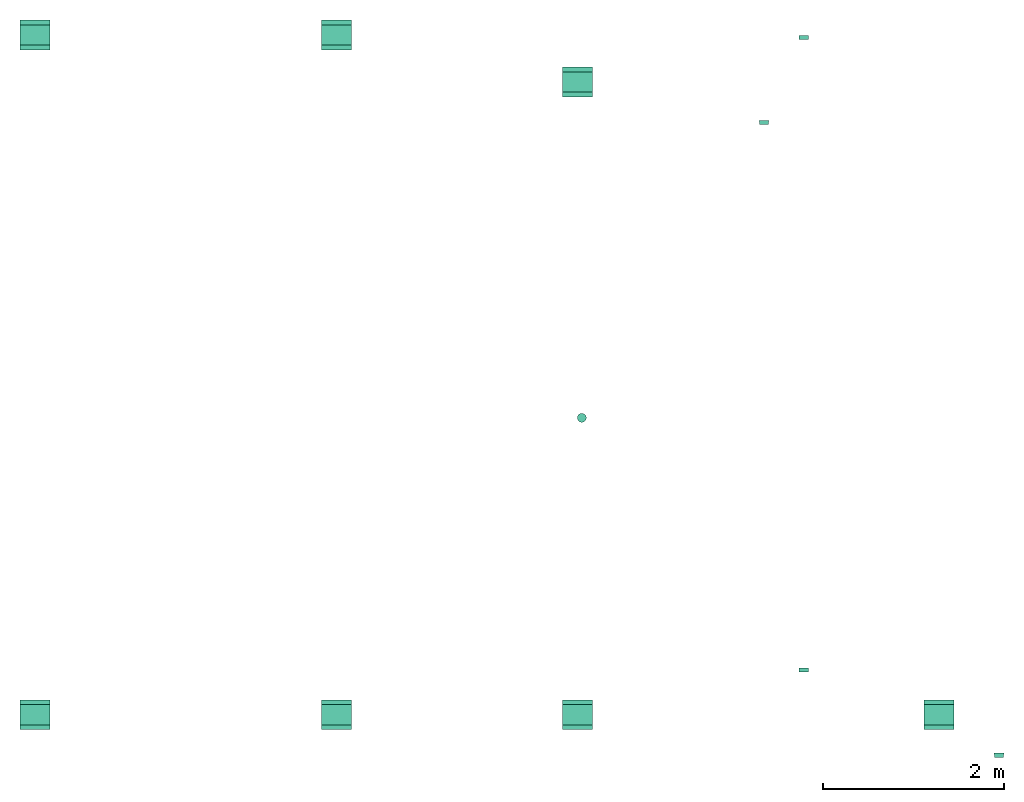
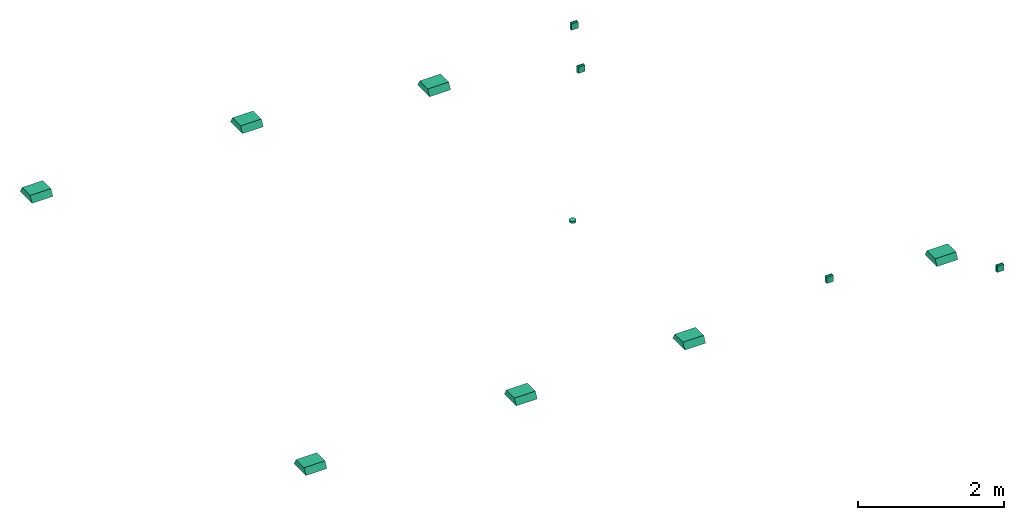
# One storey: 7 flow terminals, 4 flow fittings, 1 distribution control element.
"""IFC2X3 building model written with IfcOpenShell, lengths in millimetres."""

from ifc_helpers import new_model, entity, si_unit, converted_unit, derived_unit, direction, frame, origin_with_axes, place, context, subcontext, project, spatial, open_shell, surface_model, source, transform, mapped, type_object, element, save


model = new_model("IFC2X3")

# Units and contexts
model_context = context("Model", 3, precision=0.01, world=frame((0.0, 4.29681676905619e-09, 0.0)), true_north=direction((4.01073788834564e-13, 1.0)))
plan_context = context("Plan", 3, precision=0.01, world=frame((0.0, 4.29681676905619e-09, 0.0)), true_north=direction((4.01073788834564e-13, 1.0)))
body_context = subcontext(model_context, "Body", "Model", "MODEL_VIEW")
ifc_project = project(units=[converted_unit("PLANEANGLEUNIT", "DEGREE", entity("IfcPositiveLengthMeasure", 0.0174532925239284), si_unit("PLANEANGLEUNIT", "RADIAN"), dimensions=[0, 0, 0, 0, 0, 0, 0]), si_unit("AREAUNIT", "SQUARE_METRE"), si_unit("LENGTHUNIT", "METRE", prefix="MILLI"), si_unit("MASSUNIT", "GRAM", prefix="KILO"), si_unit("POWERUNIT", "WATT"), si_unit("PRESSUREUNIT", "PASCAL"), si_unit("FORCEUNIT", "NEWTON", prefix="KILO"), si_unit("ELECTRICVOLTAGEUNIT", "VOLT"), si_unit("ELECTRICCURRENTUNIT", "AMPERE"), si_unit("THERMODYNAMICTEMPERATUREUNIT", "DEGREE_CELSIUS"), si_unit("TIMEUNIT", "SECOND"), si_unit("VOLUMEUNIT", "CUBIC_METRE"), derived_unit("LINEARVELOCITYUNIT", [(si_unit("LENGTHUNIT", "METRE"), 1), (si_unit("TIMEUNIT", "SECOND"), -1)]), derived_unit("VOLUMETRICFLOWRATEUNIT", [(si_unit("VOLUMEUNIT", "CUBIC_METRE"), 1), (si_unit("TIMEUNIT", "SECOND"), -1)]), derived_unit("THERMALTRANSMITTANCEUNIT", [(si_unit("POWERUNIT", "WATT"), 1), (si_unit("THERMODYNAMICTEMPERATUREUNIT", "KELVIN"), -1), (si_unit("AREAUNIT", "SQUARE_METRE"), -1)]), derived_unit("SOUNDPRESSUREUNIT", [(si_unit("PRESSUREUNIT", "PASCAL"), 1)])], contexts=[model_context, plan_context])

# Site, building, storey
site_placement = place(None, frame((0.0, -4.29681676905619e-09, 0.0), z_axis=(0.0, 0.0, 1.0), x_axis=(1.0, 0.0, 0.0)))
site = spatial("IfcSite", under=ifc_project, at=site_placement, Name="ENGM", CompositionType="ELEMENT")
building_placement = place(site_placement, frame((0.0, 4.29681676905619e-09, 0.0), z_axis=(0.0, 0.0, 1.0), x_axis=(1.0, 0.0, 0.0)))
building = spatial("IfcBuilding", under=site, at=building_placement, Name="TI", CompositionType="ELEMENT")
storey_placement = place(building_placement, frame((0.0, 0.0, 205200.0), z_axis=(0.0, 0.0, 1.0), x_axis=(1.0, 0.0, 0.0)))
storey = spatial("IfcBuildingStorey", under=building, at=storey_placement, Name="Nivå D + 1,2 m", CompositionType="ELEMENT", Elevation=205200.0)

# Distribution control element
alarm_type = type_object("IfcAlarmType", Name="Brannalarm Røykdetektor", PredefinedType="NOTDEFINED")
shared_shape_1 = source(origin_with_axes(), body_context, "Body", "SurfaceModel", [
    surface_model("IfcShellBasedSurfaceModel", [(-25.0, 43.30127, -28.9), (-35.35534, 35.35534, -28.9), (-18.0, 31.17691, -28.9), (-25.45584, 25.45584, -28.9), (-9.31749, 34.77333, -28.9), (-12.94095, 48.29629, -28.9), (0.0, 36.0, -28.9), (0.0, 50.0, -28.9), (-34.77333, 9.31749, -28.9), (-43.30127, 25.0, -28.9), (-48.29629, 12.94095, -28.9), (-36.0, 0.0, -28.9), (-50.0, 0.0, -28.9), (-31.17691, 18.0, -28.9), (9.31749, 34.77333, -28.9), (12.94095, 48.29629, -28.9), (18.0, 31.17691, -28.9), (35.35534, 35.35534, -28.9), (25.0, 43.30127, -28.9), (25.45584, 25.45584, -28.9), (31.17691, 18.0, -28.9), (34.77333, 9.31749, -28.9), (43.30127, 25.0, -28.9), (48.29629, 12.94095, -28.9), (36.0, 0.0, -28.9), (50.0, 0.0, -28.9), (-34.77333, -9.31749, -28.9), (-48.29629, -12.94095, -28.9), (-31.17691, -18.0, -28.9), (-43.30127, -25.0, -28.9), (-25.45584, -25.45584, -28.9), (-35.35534, -35.35534, -28.9), (-18.0, -31.17691, -28.9), (-25.0, -43.30127, -28.9), (-9.31749, -34.77333, -28.9), (-12.94095, -48.29629, -28.9), (0.0, -36.0, -28.9), (0.0, -50.0, -28.9), (43.30127, -25.0, -28.9), (31.17691, -18.0, -28.9), (35.35534, -35.35534, -28.9), (34.77333, -9.31749, -28.9), (48.29629, -12.94095, -28.9), (25.45584, -25.45584, -28.9), (9.31749, -34.77333, -28.9), (12.94095, -48.29629, -28.9), (18.0, -31.17691, -28.9), (25.0, -43.30127, -28.9), (-25.0, -43.30127, -29.1), (-35.35534, -35.35534, -29.1), (-18.0, -31.17691, -29.1), (-25.45584, -25.45584, -29.1), (-9.31749, -34.77333, -29.1), (-12.94095, -48.29629, -29.1), (0.0, -36.0, -29.1), (0.0, -50.0, -29.1), (-34.77333, -9.31749, -29.1), (-43.30127, -25.0, -29.1), (-48.29629, -12.94095, -29.1), (-36.0, 0.0, -29.1), (-50.0, 0.0, -29.1), (-31.17691, -18.0, -29.1), (9.31749, -34.77333, -29.1), (12.94095, -48.29629, -29.1), (18.0, -31.17691, -29.1), (35.35534, -35.35534, -29.1), (25.0, -43.30127, -29.1), (25.45584, -25.45584, -29.1), (31.17691, -18.0, -29.1), (34.77333, -9.31749, -29.1), (43.30127, -25.0, -29.1), (48.29629, -12.94095, -29.1), (36.0, 0.0, -29.1), (50.0, 0.0, -29.1), (-34.77333, 9.31749, -29.1), (-48.29629, 12.94095, -29.1), (-31.17691, 18.0, -29.1), (-43.30127, 25.0, -29.1), (-25.45584, 25.45584, -29.1), (-35.35534, 35.35534, -29.1), (-18.0, 31.17691, -29.1), (-25.0, 43.30127, -29.1), (-9.31749, 34.77333, -29.1), (-12.94095, 48.29629, -29.1), (0.0, 36.0, -29.1), (0.0, 50.0, -29.1), (43.30127, 25.0, -29.1), (31.17691, 18.0, -29.1), (35.35534, 35.35534, -29.1), (34.77333, 9.31749, -29.1), (48.29629, 12.94095, -29.1), (25.45584, 25.45584, -29.1), (9.31749, 34.77333, -29.1), (12.94095, 48.29629, -29.1), (18.0, 31.17691, -29.1), (25.0, 43.30127, -29.1), (6.47048, -24.14815, -44.9), (12.5, -21.65064, -44.9), (17.67767, -17.67767, -44.9), (24.14815, -6.47048, -44.9), (-24.14815, -6.47048, -44.9), (21.65064, -12.5, -44.9), (-21.65064, 12.5, -44.9), (0.0, -25.0, -44.9), (-12.5, -21.65064, -44.9), (-6.47048, -24.14815, -44.9), (-17.67767, -17.67767, -44.9), (-21.65064, -12.5, -44.9), (25.0, 0.0, -44.9), (24.14815, 6.47048, -44.9), (21.65064, 12.5, -44.9), (17.67767, 17.67767, -44.9), (12.5, 21.65064, -44.9), (6.47048, 24.14815, -44.9), (0.0, 25.0, -44.9), (-25.0, 0.0, -44.9), (-24.14815, 6.47048, -44.9), (-12.5, 21.65064, -44.9), (-17.67767, 17.67767, -44.9), (-6.47048, 24.14815, -44.9), (0.0, 25.0, -45.1), (6.47048, 24.14815, -45.1), (12.5, 21.65064, -45.1), (-21.65064, 12.5, -45.1), (17.67767, 17.67767, -45.1), (21.65064, 12.5, -45.1), (24.14815, 6.47048, -45.1), (-12.5, 21.65064, -45.1), (-17.67767, 17.67767, -45.1), (-6.47048, 24.14815, -45.1), (-25.0, 0.0, -45.1), (-24.14815, 6.47048, -45.1), (-24.14815, -6.47048, -45.1), (24.14815, -6.47048, -45.1), (6.47048, -24.14815, -45.1), (21.65064, -12.5, -45.1), (17.67767, -17.67767, -45.1), (12.5, -21.65064, -45.1), (-12.5, -21.65064, -45.1), (-17.67767, -17.67767, -45.1), (-21.65064, -12.5, -45.1), (0.0, -25.0, -45.1), (-6.47048, -24.14815, -45.1), (25.0, 0.0, -45.1), (-1.46739, 34.60682, -29.0), (0.0, 34.8, -29.0), (0.0, 35.0, -29.0), (-34.60682, 1.46739, -29.0), (-35.0, 0.0, -29.0), (-34.8, 0.0, -29.0), (-17.5, 30.31089, -29.0), (-18.5742, 29.23669, -29.0), (-17.4, 30.13768, -29.0), (-24.60732, -24.60732, -29.0), (-18.5742, -29.23669, -29.0), (-29.23669, -18.5742, -29.0), (34.8, 0.0, -29.0), (34.60682, -1.46739, -29.0), (35.0, 0.0, -29.0), (17.4, 30.13768, -29.0), (17.5, 30.31089, -29.0), (16.03261, 30.70407, -29.0), (30.13768, 17.4, -29.0), (30.31089, 17.5, -29.0), (29.23669, 18.5742, -29.0), (34.60682, 1.46739, -29.0), (33.61422, -9.0069, -29.0), (30.70407, -16.03261, -29.0), (-33.61422, -9.0069, -29.0), (-30.70407, -16.03261, -29.0), (-34.60682, -1.46739, -29.0), (-30.13768, -17.4, -29.0), (-30.31089, -17.5, -29.0), (-17.5, -30.31089, -29.0), (-17.4, -30.13768, -29.0), (-1.46739, -34.60682, -29.0), (0.0, -35.0, -29.0), (0.0, -34.8, -29.0), (-16.03261, -30.70407, -29.0), (-9.0069, -33.61422, -29.0), (1.46739, -34.60682, -29.0), (30.13768, -17.4, -29.0), (29.23669, -18.5742, -29.0), (30.31089, -17.5, -29.0), (24.60732, -24.60732, -29.0), (18.5742, -29.23669, -29.0), (9.0069, -33.61422, -29.0), (16.03261, -30.70407, -29.0), (-30.13768, 17.4, -29.0), (-30.31089, 17.5, -29.0), (-30.70407, 16.03261, -29.0), (17.4, -30.13768, -29.0), (17.5, -30.31089, -29.0), (-33.61422, 9.0069, -29.0), (-29.23669, 18.5742, -29.0), (-24.60732, 24.60732, -29.0), (-16.03261, 30.70407, -29.0), (-9.0069, 33.61422, -29.0), (1.46739, 34.60682, -29.0), (9.0069, 33.61422, -29.0), (18.5742, 29.23669, -29.0), (24.60732, 24.60732, -29.0), (30.70407, 16.03261, -29.0), (33.61422, 9.0069, -29.0), (23.00389, 18.55381, -38.25), (14.9, 25.80756, -38.25), (21.07178, 21.07178, -38.25), (29.66376, 1.03484, -38.25), (30.0, 0.0, -38.25), (29.8, 0.0, -38.25), (24.27051, 17.63356, -38.25), (24.68215, 16.36666, -38.25), (10.52665, 27.61906, -38.25), (28.78459, 7.71281, -38.25), (-10.52665, 27.61906, -38.25), (-23.00389, 18.55381, -38.25), (-14.9, 25.80756, -38.25), (8.32335, 28.5317, -38.25), (0.0, 29.8, -38.25), (7.71281, 28.78459, -38.25), (-8.32335, 28.5317, -38.25), (-24.68215, 16.36666, -38.25), (-28.78459, 7.71281, -38.25), (-25.80756, 14.9, -38.25), (-9.27051, 28.5317, -38.25), (-29.66376, 1.03484, -38.25), (-29.8, 0.0, -38.25), (-30.0, 0.0, -38.25), (-28.78459, -7.71281, -38.25), (-24.68215, -16.36666, -38.25), (-25.80756, -14.9, -38.25), (29.66376, -1.03484, -38.25), (-7.71281, 28.78459, -38.25), (25.80756, 14.9, -38.25), (14.9, -25.80756, -38.25), (10.52665, -27.61906, -38.25), (23.00389, -18.55381, -38.25), (28.78459, -7.71281, -38.25), (24.68215, -16.36666, -38.25), (0.0, -29.8, -38.25), (-7.71281, -28.78459, -38.25), (-8.32335, -28.5317, -38.25), (8.32335, -28.5317, -38.25), (9.27051, 28.5317, -38.25), (-29.66376, -1.03484, -38.25), (21.07178, -21.07178, -38.25), (-23.00389, -18.55381, -38.25), (-24.27051, -17.63356, -38.25), (-9.27051, -28.5317, -38.25), (-10.52665, -27.61906, -38.25), (-21.07178, -21.07178, -38.25), (-14.9, -25.80756, -38.25), (9.27051, -28.5317, -38.25), (7.71281, -28.78459, -38.25), (24.27051, -17.63356, -38.25), (25.80756, -14.9, -38.25), (-21.07178, 21.07178, -38.25), (-24.27051, 17.63356, -38.25), (33.28589, -6.39713, -29.0), (27.13526, -8.81678, -38.25), (-16.77051, -23.08263, -38.25), (-23.90544, -23.90544, -29.0), (-27.13526, -8.81678, -38.25), (-33.28589, -6.39713, -29.0), (16.77051, -23.08263, -38.25), (8.75, -32.65544, -29.0), (0.0, -28.5317, -38.25), (23.90544, -23.90544, -29.0), (-8.75, -32.65544, -29.0), (-33.28589, 6.39713, -29.0), (-27.13526, 8.81678, -38.25), (16.77051, 23.08263, -38.25), (23.90544, 23.90544, -29.0), (27.13526, 8.81678, -38.25), (33.28589, 6.39713, -29.0), (-16.77051, 23.08263, -38.25), (-8.75, 32.65544, -29.0), (0.0, 28.5317, -38.25), (-23.90544, 23.90544, -29.0), (8.75, 32.65544, -29.0), (12.4, 21.47743, -45.0), (17.53625, 17.53625, -45.0), (19.07577, 15.5299, -45.0), (20.22543, 14.69463, -45.0), (20.59905, 13.54472, -45.0), (24.66376, 1.03484, -45.0), (25.0, 0.0, -45.0), (24.8, 0.0, -45.0), (8.88673, 22.93267, -45.0), (23.95496, 6.41871, -45.0), (-8.88673, 22.93267, -45.0), (-19.07577, 15.5299, -45.0), (-12.4, 21.47743, -45.0), (6.84976, 23.77641, -45.0), (0.0, 24.8, -45.0), (6.41871, 23.95496, -45.0), (-7.72542, 23.77641, -45.0), (-6.84976, 23.77641, -45.0), (-21.47743, 12.4, -45.0), (-20.59905, 13.54472, -45.0), (-23.95496, 6.41871, -45.0), (-25.0, 0.0, -45.0), (-24.66376, 1.03484, -45.0), (-24.8, 0.0, -45.0), (-23.95496, -6.41871, -45.0), (-20.59905, -13.54472, -45.0), (-21.47743, -12.4, -45.0), (-6.41871, 23.95496, -45.0), (24.66376, -1.03484, -45.0), (21.47743, 12.4, -45.0), (12.4, -21.47743, -45.0), (8.88673, -22.93267, -45.0), (19.07577, -15.5299, -45.0), (23.95496, -6.41871, -45.0), (20.59905, -13.54472, -45.0), (0.0, -24.8, -45.0), (-6.41871, -23.95496, -45.0), (-6.84976, -23.77641, -45.0), (7.72542, -23.77641, -45.0), (6.84976, -23.77641, -45.0), (7.72542, 23.77641, -45.0), (-24.66376, -1.03484, -45.0), (17.53625, -17.53625, -45.0), (-20.22543, -14.69463, -45.0), (-19.07577, -15.5299, -45.0), (-8.88673, -22.93267, -45.0), (-7.72542, -23.77641, -45.0), (-17.53625, -17.53625, -45.0), (-12.4, -21.47743, -45.0), (6.41871, -23.95496, -45.0), (20.22543, -14.69463, -45.0), (21.47743, -12.4, -45.0), (-17.53625, 17.53625, -45.0), (-20.22543, 14.69463, -45.0), (-22.61271, -7.34732, -45.0), (-13.97542, -19.23552, -45.0), (0.0, -23.77641, -45.0), (21.83768, -9.73262, -45.0), (13.97542, -19.23552, -45.0), (23.41884, -4.86631, -45.0), (22.61271, 7.34732, -45.0), (13.97542, 19.23552, -45.0), (0.0, 23.77641, -45.0), (-21.83768, 9.73262, -45.0), (-13.97542, 19.23552, -45.0), (-23.41884, 4.86631, -45.0), (12.94095, -48.29629, 0.0), (25.0, -43.30127, 0.0), (35.35534, -35.35534, 0.0), (48.29629, -12.94095, 0.0), (-48.29629, -12.94095, 0.0), (43.30127, -25.0, 0.0), (-43.30127, 25.0, 0.0), (0.0, -50.0, 0.0), (-25.0, -43.30127, 0.0), (-12.94095, -48.29629, 0.0), (-35.35534, -35.35534, 0.0), (-43.30127, -25.0, 0.0), (50.0, 0.0, 0.0), (48.29629, 12.94095, 0.0), (43.30127, 25.0, 0.0), (35.35534, 35.35534, 0.0), (25.0, 43.30127, 0.0), (12.94095, 48.29629, 0.0), (0.0, 50.0, 0.0), (-50.0, 0.0, 0.0), (-48.29629, 12.94095, 0.0), (-25.0, 43.30127, 0.0), (-35.35534, 35.35534, 0.0), (-12.94095, 48.29629, 0.0), (0.0, 50.0, -29.0), (12.94095, 48.29629, -29.0), (25.0, 43.30127, -29.0), (-43.30127, 25.0, -29.0), (35.35534, 35.35534, -29.0), (43.30127, 25.0, -29.0), (48.29629, 12.94095, -29.0), (-25.0, 43.30127, -29.0), (-35.35534, 35.35534, -29.0), (-12.94095, 48.29629, -29.0), (-50.0, 0.0, -29.0), (-48.29629, 12.94095, -29.0), (-48.29629, -12.94095, -29.0), (48.29629, -12.94095, -29.0), (12.94095, -48.29629, -29.0), (43.30127, -25.0, -29.0), (35.35534, -35.35534, -29.0), (25.0, -43.30127, -29.0), (-25.0, -43.30127, -29.0), (-35.35534, -35.35534, -29.0), (-43.30127, -25.0, -29.0), (0.0, -50.0, -29.0), (-12.94095, -48.29629, -29.0), (50.0, 0.0, -29.0)], [open_shell([[[0, 1, 2]], [[2, 1, 3]], [[0, 2, 4]], [[5, 4, 6]], [[4, 5, 0]], [[5, 6, 7]], [[8, 9, 10]], [[11, 10, 12]], [[8, 10, 11]], [[13, 3, 9]], [[8, 13, 9]], [[9, 3, 1]], [[7, 14, 15]], [[14, 7, 6]], [[15, 14, 16]], [[17, 18, 19]], [[16, 18, 15]], [[19, 18, 16]], [[20, 21, 22]], [[20, 22, 17]], [[21, 23, 22]], [[23, 21, 24]], [[23, 24, 25]], [[20, 17, 19]], [[26, 12, 27]], [[28, 27, 29]], [[28, 26, 27]], [[30, 28, 29]], [[29, 31, 30]], [[32, 31, 33]], [[31, 32, 30]], [[32, 33, 34]], [[34, 35, 36]], [[35, 34, 33]], [[36, 35, 37]], [[38, 39, 40]], [[41, 39, 42]], [[41, 42, 25]], [[42, 39, 38]], [[39, 43, 40]], [[25, 24, 41]], [[44, 37, 45]], [[37, 44, 36]], [[44, 45, 46]], [[47, 40, 43]], [[47, 46, 45]], [[47, 43, 46]], [[26, 11, 12]], [[48, 49, 50]], [[50, 49, 51]], [[48, 50, 52]], [[53, 52, 54]], [[52, 53, 48]], [[53, 54, 55]], [[56, 57, 58]], [[59, 58, 60]], [[56, 58, 59]], [[61, 51, 57]], [[56, 61, 57]], [[57, 51, 49]], [[55, 62, 63]], [[62, 55, 54]], [[63, 62, 64]], [[65, 66, 67]], [[64, 66, 63]], [[67, 66, 64]], [[68, 69, 70]], [[68, 70, 65]], [[69, 71, 70]], [[71, 69, 72]], [[71, 72, 73]], [[68, 65, 67]], [[74, 60, 75]], [[76, 75, 77]], [[76, 74, 75]], [[78, 76, 77]], [[77, 79, 78]], [[80, 79, 81]], [[79, 80, 78]], [[80, 81, 82]], [[82, 83, 84]], [[83, 82, 81]], [[84, 83, 85]], [[86, 87, 88]], [[89, 87, 90]], [[89, 90, 73]], [[90, 87, 86]], [[87, 91, 88]], [[73, 72, 89]], [[92, 85, 93]], [[85, 92, 84]], [[92, 93, 94]], [[95, 88, 91]], [[95, 94, 93]], [[95, 91, 94]], [[74, 59, 60]], [[11, 59, 8]], [[8, 74, 13]], [[2, 3, 78]], [[76, 3, 13]], [[4, 2, 80]], [[74, 76, 13]], [[8, 59, 74]], [[84, 6, 82]], [[4, 80, 82]], [[80, 2, 78]], [[3, 76, 78]], [[4, 82, 6]], [[14, 92, 16]], [[16, 94, 19]], [[21, 20, 87]], [[91, 20, 19]], [[24, 21, 89]], [[92, 94, 16]], [[14, 84, 92]], [[21, 87, 89]], [[87, 20, 91]], [[19, 94, 91]], [[24, 89, 72]], [[6, 84, 14]], [[24, 72, 41]], [[41, 69, 39]], [[46, 43, 67]], [[68, 43, 39]], [[44, 46, 64]], [[69, 68, 39]], [[41, 72, 69]], [[54, 36, 62]], [[44, 64, 62]], [[64, 46, 67]], [[43, 68, 67]], [[44, 62, 36]], [[34, 52, 32]], [[32, 50, 30]], [[26, 28, 61]], [[51, 28, 30]], [[11, 26, 56]], [[52, 50, 32]], [[34, 54, 52]], [[26, 61, 56]], [[61, 28, 51]], [[30, 50, 51]], [[11, 56, 59]], [[36, 54, 34]], [[58, 27, 60]], [[57, 29, 58]], [[33, 49, 48]], [[57, 49, 31]], [[35, 48, 53]], [[58, 29, 27]], [[27, 12, 60]], [[35, 33, 48]], [[31, 49, 33]], [[31, 29, 57]], [[37, 35, 53]], [[53, 55, 37]], [[63, 45, 55]], [[66, 47, 63]], [[38, 65, 70]], [[66, 65, 40]], [[42, 70, 71]], [[66, 40, 47]], [[47, 45, 63]], [[25, 42, 71]], [[38, 70, 42]], [[38, 40, 65]], [[73, 25, 71]], [[55, 45, 37]], [[90, 23, 73]], [[86, 22, 90]], [[18, 88, 95]], [[86, 88, 17]], [[15, 95, 93]], [[90, 22, 23]], [[23, 25, 73]], [[15, 18, 95]], [[17, 88, 18]], [[17, 22, 86]], [[7, 15, 93]], [[93, 85, 7]], [[83, 5, 85]], [[81, 0, 83]], [[9, 79, 77]], [[81, 79, 1]], [[10, 77, 75]], [[81, 1, 0]], [[0, 5, 83]], [[12, 10, 75]], [[9, 77, 10]], [[9, 1, 79]], [[60, 12, 75]], [[85, 5, 7]], [[96, 97, 98]], [[96, 98, 99]], [[96, 99, 100]], [[99, 98, 101]], [[102, 100, 99]], [[103, 104, 105]], [[103, 96, 104]], [[106, 100, 107]], [[106, 104, 96]], [[100, 106, 96]], [[99, 108, 102]], [[109, 110, 111]], [[109, 111, 112]], [[112, 113, 114]], [[109, 112, 102]], [[102, 112, 114]], [[115, 102, 116]], [[100, 102, 115]], [[102, 117, 118]], [[117, 102, 119]], [[114, 119, 102]], [[102, 108, 109]], [[120, 121, 122]], [[123, 120, 122]], [[124, 125, 126]], [[124, 126, 122]], [[123, 122, 126]], [[127, 123, 128]], [[123, 127, 129]], [[123, 130, 131]], [[123, 129, 120]], [[123, 132, 130]], [[123, 126, 133]], [[132, 123, 133]], [[134, 133, 135]], [[136, 137, 134]], [[136, 134, 135]], [[138, 133, 134]], [[132, 139, 140]], [[132, 133, 139]], [[138, 141, 142]], [[139, 133, 138]], [[134, 141, 138]], [[133, 126, 143]], [[132, 100, 130]], [[140, 107, 132]], [[104, 139, 138]], [[140, 139, 106]], [[105, 138, 142]], [[132, 107, 100]], [[100, 115, 130]], [[105, 104, 138]], [[106, 139, 104]], [[106, 107, 140]], [[103, 105, 142]], [[142, 141, 103]], [[134, 96, 141]], [[137, 97, 134]], [[101, 136, 135]], [[137, 136, 98]], [[99, 135, 133]], [[137, 98, 97]], [[97, 96, 134]], [[108, 99, 133]], [[101, 135, 99]], [[101, 98, 136]], [[143, 108, 133]], [[141, 96, 103]], [[126, 109, 143]], [[125, 110, 126]], [[112, 124, 122]], [[125, 124, 111]], [[113, 122, 121]], [[126, 110, 109]], [[109, 108, 143]], [[113, 112, 122]], [[111, 124, 112]], [[111, 110, 125]], [[114, 113, 121]], [[121, 120, 114]], [[129, 119, 120]], [[127, 117, 129]], [[102, 128, 123]], [[127, 128, 118]], [[116, 123, 131]], [[127, 118, 117]], [[117, 119, 129]], [[115, 116, 131]], [[102, 123, 116]], [[102, 118, 128]], [[130, 115, 131]], [[120, 119, 114]], [[144, 145, 146]], [[147, 148, 149]], [[150, 151, 152]], [[153, 154, 155]], [[156, 157, 158]], [[159, 160, 161]], [[162, 163, 164]], [[156, 158, 165]], [[166, 157, 167]], [[168, 169, 170]], [[170, 149, 148]], [[171, 169, 172]], [[173, 174, 154]], [[175, 176, 177]], [[174, 173, 178]], [[155, 171, 172]], [[179, 175, 178]], [[180, 177, 176]], [[181, 182, 183]], [[181, 183, 167]], [[184, 182, 185]], [[186, 187, 180]], [[188, 189, 190]], [[191, 192, 185]], [[191, 187, 192]], [[193, 147, 190]], [[188, 194, 189]], [[195, 194, 151]], [[152, 196, 150]], [[197, 196, 144]], [[145, 198, 146]], [[199, 198, 161]], [[159, 200, 160]], [[201, 200, 164]], [[162, 202, 163]], [[203, 202, 165]], [[204, 205, 206]], [[207, 208, 209]], [[204, 210, 211]], [[205, 204, 212]], [[213, 207, 211]], [[214, 215, 216]], [[217, 218, 219]], [[218, 217, 220]], [[221, 222, 223]], [[220, 214, 224]], [[225, 226, 227]], [[228, 229, 230]], [[209, 208, 231]], [[218, 220, 232]], [[213, 211, 233]], [[234, 235, 236]], [[237, 238, 231]], [[239, 240, 241]], [[241, 242, 239]], [[243, 212, 217]], [[227, 226, 244]], [[234, 236, 245]], [[229, 246, 247]], [[241, 248, 249]], [[250, 246, 251]], [[228, 244, 229]], [[235, 252, 242]], [[239, 242, 253]], [[236, 238, 254]], [[238, 237, 255]], [[251, 246, 249]], [[216, 215, 256]], [[215, 221, 257]], [[222, 221, 225]], [[208, 158, 258]], [[183, 259, 258]], [[260, 261, 247]], [[172, 262, 247]], [[263, 227, 262]], [[192, 252, 264]], [[260, 248, 173]], [[261, 260, 173]], [[252, 265, 266]], [[227, 263, 148]], [[172, 263, 262]], [[258, 259, 208]], [[254, 267, 264]], [[268, 173, 248]], [[252, 192, 265]], [[192, 264, 267]], [[267, 254, 183]], [[259, 183, 254]], [[268, 266, 176]], [[265, 176, 266]], [[248, 266, 268]], [[172, 247, 261]], [[227, 148, 269]], [[189, 270, 269]], [[271, 272, 210]], [[163, 273, 210]], [[274, 208, 273]], [[150, 224, 275]], [[271, 243, 160]], [[272, 271, 160]], [[224, 276, 277]], [[208, 274, 158]], [[163, 274, 273]], [[269, 270, 227]], [[257, 278, 275]], [[279, 160, 243]], [[224, 150, 276]], [[150, 275, 278]], [[278, 257, 189]], [[270, 189, 257]], [[279, 277, 146]], [[276, 146, 277]], [[243, 277, 279]], [[163, 210, 272]], [[171, 230, 228]], [[168, 228, 226]], [[179, 240, 251]], [[174, 251, 250]], [[153, 250, 230]], [[168, 171, 228]], [[226, 149, 168]], [[251, 174, 179]], [[174, 250, 153]], [[230, 171, 153]], [[240, 179, 177]], [[177, 239, 240]], [[184, 245, 234]], [[191, 234, 253]], [[156, 209, 237]], [[166, 237, 255]], [[181, 255, 245]], [[239, 186, 253]], [[186, 191, 253]], [[177, 186, 239]], [[184, 181, 245]], [[191, 184, 234]], [[181, 166, 255]], [[166, 156, 237]], [[162, 233, 213]], [[203, 213, 209]], [[199, 219, 205]], [[159, 205, 206]], [[201, 206, 233]], [[203, 162, 213]], [[209, 156, 203]], [[205, 159, 199]], [[159, 206, 201]], [[233, 162, 201]], [[219, 199, 145]], [[145, 218, 219]], [[195, 256, 216]], [[152, 216, 232]], [[149, 226, 222]], [[193, 222, 223]], [[188, 223, 256]], [[218, 197, 232]], [[197, 152, 232]], [[145, 197, 218]], [[195, 188, 256]], [[152, 195, 216]], [[188, 193, 223]], [[193, 149, 222]], [[215, 216, 256]], [[221, 222, 225]], [[225, 227, 226]], [[257, 221, 215]], [[216, 215, 214]], [[212, 204, 205]], [[220, 218, 232]], [[218, 220, 217]], [[217, 212, 243]], [[233, 211, 213]], [[208, 207, 209]], [[237, 238, 255]], [[252, 235, 242]], [[218, 217, 219]], [[227, 244, 226]], [[222, 221, 223]], [[228, 229, 244]], [[239, 253, 242]], [[246, 251, 249]], [[249, 248, 241]], [[231, 238, 237]], [[208, 209, 231]], [[251, 246, 250]], [[254, 238, 236]], [[236, 234, 245]], [[214, 220, 224]], [[242, 241, 239]], [[239, 241, 240]], [[246, 229, 247]], [[230, 229, 228]], [[234, 236, 235]], [[205, 204, 206]], [[204, 211, 210]], [[213, 211, 207]], [[280, 281, 282]], [[282, 283, 284]], [[285, 286, 287]], [[280, 282, 288]], [[289, 285, 284]], [[290, 291, 292]], [[293, 294, 295]], [[290, 296, 297]], [[294, 293, 297]], [[298, 299, 300]], [[301, 302, 303]], [[304, 305, 306]], [[294, 297, 307]], [[308, 287, 286]], [[289, 284, 309]], [[310, 311, 312]], [[313, 314, 308]], [[315, 316, 317]], [[311, 318, 319]], [[293, 320, 288]], [[301, 303, 321]], [[310, 312, 322]], [[323, 305, 324]], [[325, 317, 326]], [[327, 324, 328]], [[304, 321, 305]], [[317, 319, 315]], [[315, 319, 329]], [[312, 314, 330]], [[331, 314, 313]], [[328, 324, 325]], [[292, 291, 332]], [[291, 299, 333]], [[300, 299, 302]], [[262, 301, 334]], [[334, 323, 247]], [[248, 335, 326]], [[301, 262, 227]], [[334, 247, 262]], [[260, 323, 335]], [[266, 248, 326]], [[336, 252, 266]], [[252, 336, 318]], [[323, 260, 247]], [[248, 260, 335]], [[254, 337, 259]], [[318, 264, 252]], [[338, 254, 264]], [[339, 286, 208]], [[264, 318, 338]], [[259, 339, 208]], [[338, 330, 254]], [[266, 326, 336]], [[259, 337, 339]], [[337, 254, 330]], [[273, 286, 340]], [[340, 283, 210]], [[243, 341, 320]], [[286, 273, 208]], [[340, 210, 273]], [[271, 283, 341]], [[277, 243, 320]], [[342, 224, 277]], [[224, 342, 296]], [[283, 271, 210]], [[243, 271, 341]], [[257, 343, 270]], [[296, 275, 224]], [[344, 257, 275]], [[345, 301, 227]], [[275, 296, 344]], [[270, 345, 227]], [[344, 333, 257]], [[277, 320, 342]], [[270, 343, 345]], [[343, 257, 333]], [[230, 306, 304]], [[228, 304, 303]], [[240, 316, 328]], [[251, 328, 327]], [[250, 327, 306]], [[228, 230, 304]], [[303, 226, 228]], [[328, 251, 240]], [[251, 327, 250]], [[306, 230, 250]], [[316, 240, 239]], [[239, 315, 316]], [[245, 322, 310]], [[234, 310, 329]], [[209, 287, 313]], [[237, 313, 331]], [[255, 331, 322]], [[315, 253, 329]], [[253, 234, 329]], [[239, 253, 315]], [[255, 322, 245]], [[234, 245, 310]], [[331, 255, 237]], [[237, 209, 313]], [[233, 309, 289]], [[213, 289, 287]], [[219, 295, 280]], [[205, 280, 281]], [[206, 281, 309]], [[213, 233, 289]], [[287, 209, 213]], [[280, 205, 219]], [[205, 281, 206]], [[309, 233, 206]], [[295, 219, 218]], [[218, 294, 295]], [[256, 332, 292]], [[216, 292, 307]], [[226, 303, 300]], [[222, 300, 298]], [[223, 298, 332]], [[294, 232, 307]], [[232, 216, 307]], [[218, 232, 294]], [[223, 332, 256]], [[216, 256, 292]], [[298, 223, 222]], [[222, 226, 300]], [[346, 347, 348]], [[346, 348, 349]], [[346, 349, 350]], [[349, 348, 351]], [[352, 350, 349]], [[353, 354, 355]], [[353, 346, 354]], [[356, 350, 357]], [[356, 354, 346]], [[350, 356, 346]], [[349, 358, 352]], [[359, 360, 361]], [[359, 361, 362]], [[362, 363, 364]], [[359, 362, 352]], [[352, 362, 364]], [[365, 352, 366]], [[350, 352, 365]], [[352, 367, 368]], [[367, 352, 369]], [[364, 369, 352]], [[352, 358, 359]], [[370, 371, 372]], [[373, 370, 372]], [[374, 375, 376]], [[374, 376, 372]], [[373, 372, 376]], [[377, 373, 378]], [[373, 377, 379]], [[373, 380, 381]], [[373, 379, 370]], [[373, 382, 380]], [[373, 376, 383]], [[382, 373, 383]], [[384, 383, 385]], [[386, 387, 384]], [[386, 384, 385]], [[388, 383, 384]], [[382, 389, 390]], [[382, 383, 389]], [[388, 391, 392]], [[389, 383, 388]], [[384, 391, 388]], [[383, 376, 393]], [[382, 350, 380]], [[390, 357, 382]], [[354, 389, 388]], [[390, 389, 356]], [[355, 388, 392]], [[382, 357, 350]], [[350, 365, 380]], [[355, 354, 388]], [[356, 389, 354]], [[356, 357, 390]], [[353, 355, 392]], [[392, 391, 353]], [[384, 346, 391]], [[387, 347, 384]], [[351, 386, 385]], [[387, 386, 348]], [[349, 385, 383]], [[387, 348, 347]], [[347, 346, 384]], [[358, 349, 383]], [[351, 385, 349]], [[351, 348, 386]], [[393, 358, 383]], [[391, 346, 353]], [[376, 359, 393]], [[375, 360, 376]], [[362, 374, 372]], [[375, 374, 361]], [[363, 372, 371]], [[376, 360, 359]], [[359, 358, 393]], [[363, 362, 372]], [[361, 374, 362]], [[361, 360, 375]], [[364, 363, 371]], [[371, 370, 364]], [[369, 370, 379]], [[367, 379, 377]], [[352, 373, 381]], [[366, 381, 380]], [[379, 367, 369]], [[367, 377, 378]], [[367, 378, 368]], [[368, 378, 352]], [[352, 378, 373]], [[352, 381, 366]], [[380, 365, 366]], [[370, 369, 364]]])]),
])
distribution_control_element_placement = place(storey_placement, frame((604715.24, 695234.51868, 5120.0), z_axis=(0.0, 0.0, 1.0), x_axis=(1.0, 0.0, 0.0)))
element("IfcDistributionControlElement", 1, at=distribution_control_element_placement, inside=storey, type_object=alarm_type, Name="Brannalarm Røykdetektor", context=body_context, shape_type="MappedRepresentation", body=[
    mapped(shared_shape_1, transform((0.0, 0.0, 0.0), scale=1.0)),
])

# Flow fittings
junction_box_type = type_object("IfcJunctionBoxType", Name="Koblingsboks åpen", PredefinedType="NOTDEFINED")
shared_shape_2 = source(origin_with_axes(), body_context, "Body", "SurfaceModel", [
    surface_model("IfcShellBasedSurfaceModel", [(-55.0, 46.0, 55.0), (-55.0, 32.2, 55.0), (55.0, 32.2, 55.0), (55.0, 46.0, 55.0), (55.0, 46.0, -55.0), (55.0, 32.2, -55.0), (-55.0, 32.2, -55.0), (-55.0, 46.0, -55.0), (-52.0, 32.2, 52.0), (-52.0, 0.0, 52.0), (52.0, 0.0, 52.0), (52.0, 32.2, 52.0), (52.0, 32.2, -52.0), (52.0, 0.0, -52.0), (-52.0, 0.0, -52.0), (-52.0, 32.2, -52.0)], [open_shell([[[0, 1, 2]], [[2, 3, 0]], [[4, 5, 6]], [[6, 7, 4]], [[2, 1, 6]], [[6, 5, 2]], [[3, 2, 5]], [[5, 4, 3]], [[0, 3, 4]], [[4, 7, 0]], [[1, 0, 7]], [[7, 6, 1]], [[8, 9, 10]], [[10, 11, 8]], [[12, 13, 14]], [[14, 15, 12]], [[10, 9, 14]], [[14, 13, 10]], [[11, 10, 13]], [[13, 12, 11]], [[8, 11, 12]], [[12, 15, 8]], [[9, 8, 15]], [[15, 14, 9]]])]),
])
for number, where, z_axis, x_axis in (
    (2, (607170.09165, 699420.62496, 4965.0), (0.0, 0.0, 1.0), (1.0, 0.0, 0.0)),
    (3, (606730.56866, 698478.06486, 4965.0), (0.0, 0.0, 1.0), (1.0, 0.0, 0.0)),
    (4, (607170.09165, 692420.62496, 4965.0), (0.0, 0.0, 1.0), (1.0, 0.0, 0.0)),
    (5, (609330.56866, 691478.06486, 4965.0), (0.0, 0.0, 1.0), (1.0, 0.0, 0.0)),
):
    element("IfcFlowFitting", number, at=place(storey_placement, frame(where, z_axis=z_axis, x_axis=x_axis)), inside=storey, type_object=junction_box_type, Name="Koblingsboks åpen", context=body_context, shape_type="MappedRepresentation", body=[
        mapped(shared_shape_2, transform((0.0, 0.0, 0.0), scale=1.0)),
    ])

# Flow terminals
light_fixture_type = type_object("IfcLightFixtureType", Name="IB5301 Zumtobel Craft 140W LED840 L330 PM WB LDO WH", PredefinedType="NOTDEFINED")
shared_shape_3 = source(origin_with_axes(), body_context, "Body", "SurfaceModel", [
    surface_model("IfcShellBasedSurfaceModel", [(166.0, 165.59362, 0.0), (166.0, 112.54214, 100.0), (166.0, -163.72878, 0.0), (166.0, -112.54214, 100.0), (-166.0, -163.72878, 0.0), (-166.0, -112.54214, 100.0), (-166.0, 112.54214, 100.0), (-166.0, 165.59362, 0.0)], [open_shell([[[0, 1, 2]], [[3, 2, 1]], [[4, 5, 6]], [[6, 7, 4]], [[2, 3, 4]], [[5, 4, 3]], [[0, 2, 4]], [[4, 7, 0]], [[1, 0, 7]], [[7, 6, 1]], [[3, 1, 5]], [[6, 5, 1]]])]),
])
for number, where, z_axis, x_axis in (
    (6, (608665.0, 691950.0, 5100.0), (0.0, 0.0, 1.0), (1.0, 0.0, 0.0)),
    (7, (598666.0, 699470.0, 5100.0), (0.0, 0.0, 1.0), (1.0, 0.0, 0.0)),
    (8, (601999.0, 699470.0, 5100.0), (0.0, 0.0, 1.0), (1.0, 0.0, 0.0)),
    (9, (604667.39229, 698950.0, 5100.0), (0.0, 0.0, 1.0), (1.0, 0.0, 0.0)),
    (10, (598666.0, 691950.0, 5100.0), (0.0, 0.0, 1.0), (1.0, 0.0, 0.0)),
    (11, (601999.0, 691950.0, 5100.0), (0.0, 0.0, 1.0), (1.0, 0.0, 0.0)),
    (12, (604667.39229, 691950.0, 5100.0), (0.0, 0.0, 1.0), (1.0, 0.0, 0.0)),
):
    element("IfcFlowTerminal", number, at=place(storey_placement, frame(where, z_axis=z_axis, x_axis=x_axis)), inside=storey, type_object=light_fixture_type, Name="IB5301 Zumtobel Craft 140W LED840 L330 PM WB LDO WH", context=body_context, shape_type="MappedRepresentation", body=[
        mapped(shared_shape_3, transform((0.0, 0.0, 0.0), scale=1.0)),
    ])

save(model, "model.ifc")
